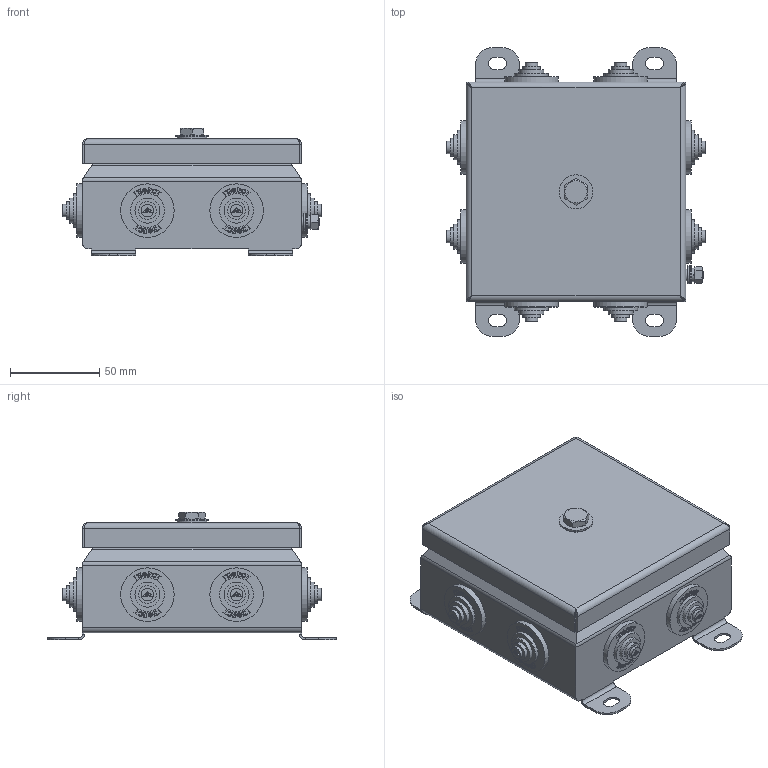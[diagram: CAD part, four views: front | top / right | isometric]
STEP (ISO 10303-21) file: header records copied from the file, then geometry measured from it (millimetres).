
FILE_DESCRIPTION(('STEP AP203'), '1');
FILE_NAME('Êîðîáêà 1212 IP55', '', ('UNSPECIFIED'), ('UNSPECIFIED'), 'ASCON STEP Converter 1.6', 'ASCON Math Kernel', '');
FILE_SCHEMA(('CONFIG_CONTROL_DESIGN'));
Length unit declared in the file: millimetre
Bounding box: 145.5 x 162 x 71.7 mm (x, y, z)
Volume: 930712.4 mm3; surface area: 83903.6 mm2
Topology: 2 solids, 2 shells, 1621 faces, 4186 edges, 2757 vertices
Faces by surface type: plane 1201, extrusion 288, cylinder 109, cone 13, bspline 8, torus 2
Full cylindrical faces by diameter (mm): 3.7 x1, 4.134 x1, 5 x1, 5.5 x2, 6.5 x1, 7 x8, 10 x10, 14 x8, 17 x1, 19 x9, 30 x8
Entity records: 65585 total; most frequent: CARTESIAN_POINT 14366, ORIENTED_EDGE 8254, DIRECTION 6596, EDGE_CURVE 4127, VECTOR 3562, LINE 3274, VERTEX_POINT 2757, EDGE_LOOP 1880
